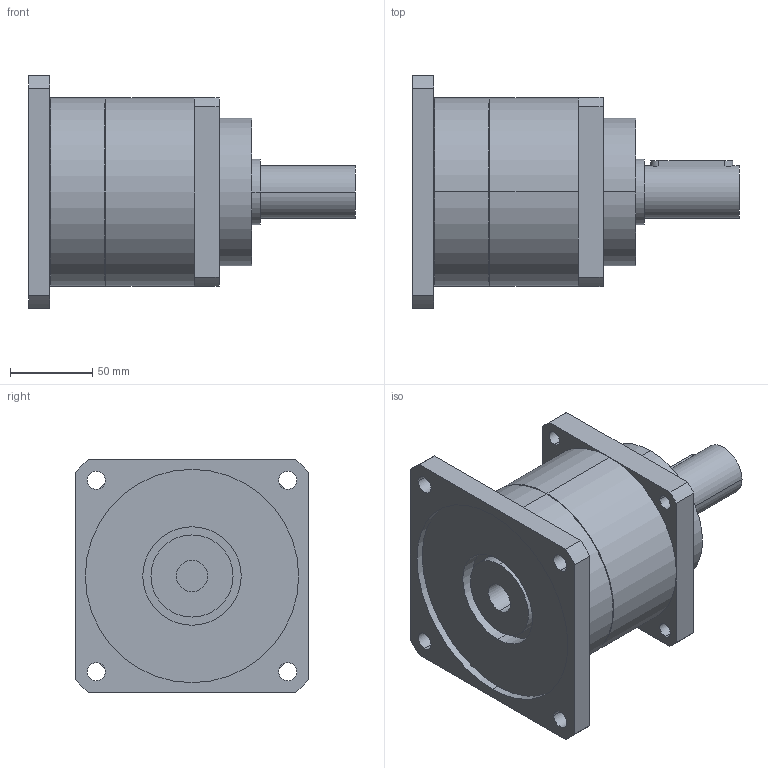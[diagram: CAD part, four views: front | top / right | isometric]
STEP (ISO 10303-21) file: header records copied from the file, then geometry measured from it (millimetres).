
FILE_DESCRIPTION(('CoCreate Modeling STEP Export'),'2;1');
FILE_NAME('GPT120_ig-3-4-5-7-10_32_B5A_19_P08.stp','2015-02-04T16:08:39',(''),(''),'CoCreate Modeling STEP processor for AP214 (Solid Model)','CoCreate Modeling 16.00C 25-Feb-2009 (C) Parametric Technology GmbH','');
FILE_SCHEMA(('AUTOMOTIVE_DESIGN { 1 0 10303 214 1 1 1 1 }'));
Length unit declared in the file: millimetre
Products named in the file (2): GPT120_ig-3-4-5-7-10_32_B5A_19_P08
Assembly tree (1 placements, depth 2):
  GPT120_ig-3-4-5-7-10_32_B5A_19_P08
    GPT120_ig-3-4-5-7-10_32_B5A_19_P08
Bounding box: 199 x 142 x 142 mm (x, y, z)
Volume: 1464029.7 mm3; surface area: 113713.5 mm2
Topology: 1 solids, 1 shells, 77 faces, 206 edges, 141 vertices
Faces by surface type: cylinder 46, plane 27, cone 4
Entity records: 2578 total; most frequent: CARTESIAN_POINT 761, ORIENTED_EDGE 412, DIRECTION 320, EDGE_CURVE 206, VERTEX_POINT 141, AXIS2_PLACEMENT_3D 118, EDGE_LOOP 103, VECTOR 84
